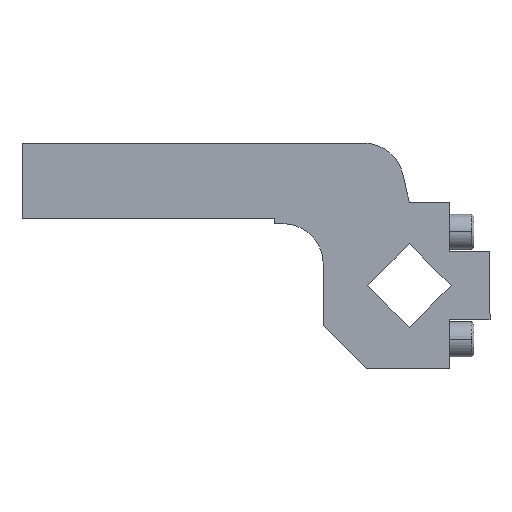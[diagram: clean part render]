
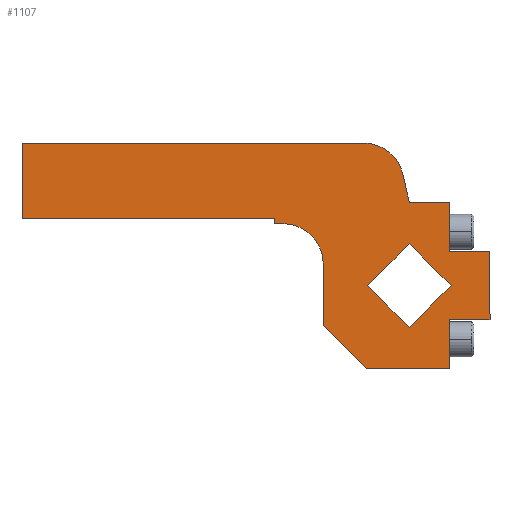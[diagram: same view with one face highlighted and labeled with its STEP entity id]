
A CAD part, front view. The second image highlights one B-rep face of the part: STEP entity #1107.
In plain terms, the highlighted planar face has unit normal (0, -1, 0).
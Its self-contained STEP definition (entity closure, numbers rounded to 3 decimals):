
#51=CARTESIAN_POINT('',(23.607,-10.,-6.393));
#52=VERTEX_POINT('',#51);
#68=CARTESIAN_POINT('',(28.,-10.,-17.0));
#69=VERTEX_POINT('',#68);
#76=CARTESIAN_POINT('',(13.0,-10.,-17.));
#77=DIRECTION('',(0.,-1.,0.));
#78=DIRECTION('',(0.707,0.,0.707));
#79=AXIS2_PLACEMENT_3D('',#76,#77,#78);
#80=CIRCLE('',#79,15.);
#81=EDGE_CURVE('',#69,#52,#80,.T.);
#93=CARTESIAN_POINT('',(52.327,-10.,24.739));
#94=VERTEX_POINT('',#93);
#110=CARTESIAN_POINT('',(42.989,-10.,28.));
#111=VERTEX_POINT('',#110);
#118=CARTESIAN_POINT('',(42.989,-10.,13.0));
#119=DIRECTION('',(0.,1.0,0.));
#120=DIRECTION('',(0.623,0.,0.783));
#121=AXIS2_PLACEMENT_3D('',#118,#119,#120);
#122=CIRCLE('',#121,15.);
#123=EDGE_CURVE('',#111,#94,#122,.T.);
#721=CARTESIAN_POINT('',(75.556,-10.,-25.));
#722=VERTEX_POINT('',#721);
#723=CARTESIAN_POINT('',(60.,-10.,-40.556));
#724=VERTEX_POINT('',#723);
#725=CARTESIAN_POINT('',(75.556,-10.,-25.));
#726=DIRECTION('',(-0.707,0.0,-0.707));
#727=VECTOR('',#726,22.);
#728=LINE('',#725,#727);
#729=EDGE_CURVE('',#722,#724,#728,.T.);
#761=CARTESIAN_POINT('',(60.,-10.,-9.444));
#762=VERTEX_POINT('',#761);
#763=CARTESIAN_POINT('',(60.,-10.,-9.444));
#764=DIRECTION('',(0.707,0.0,-0.707));
#765=VECTOR('',#764,22.);
#766=LINE('',#763,#765);
#767=EDGE_CURVE('',#762,#722,#766,.T.);
#792=CARTESIAN_POINT('',(60.,-10.,6.));
#793=VERTEX_POINT('',#792);
#794=CARTESIAN_POINT('',(75.,-10.,6.));
#795=VERTEX_POINT('',#794);
#796=CARTESIAN_POINT('',(60.,-10.,6.));
#797=DIRECTION('',(1.0,0.0,0.0));
#798=VECTOR('',#797,15.);
#799=LINE('',#796,#798);
#800=EDGE_CURVE('',#793,#795,#799,.T.);
#832=CARTESIAN_POINT('',(75.,-10.,-12.25));
#833=VERTEX_POINT('',#832);
#834=CARTESIAN_POINT('',(75.,-10.,6.));
#835=DIRECTION('',(0.0,0.0,-1.0));
#836=VECTOR('',#835,18.25);
#837=LINE('',#834,#836);
#838=EDGE_CURVE('',#795,#833,#837,.T.);
#867=CARTESIAN_POINT('',(90.,-10.,-12.25));
#868=VERTEX_POINT('',#867);
#869=CARTESIAN_POINT('',(75.,-10.,-12.25));
#870=DIRECTION('',(1.0,0.0,0.0));
#871=VECTOR('',#870,15.0);
#872=LINE('',#869,#871);
#873=EDGE_CURVE('',#833,#868,#872,.T.);
#898=CARTESIAN_POINT('',(90.,-10.,-37.75));
#899=VERTEX_POINT('',#898);
#900=CARTESIAN_POINT('',(90.,-10.,-12.25));
#901=DIRECTION('',(0.0,0.0,-1.0));
#902=VECTOR('',#901,25.5);
#903=LINE('',#900,#902);
#904=EDGE_CURVE('',#868,#899,#903,.T.);
#929=CARTESIAN_POINT('',(75.,-10.,-37.75));
#930=VERTEX_POINT('',#929);
#931=CARTESIAN_POINT('',(90.,-10.,-37.75));
#932=DIRECTION('',(-1.0,0.0,0.0));
#933=VECTOR('',#932,15.0);
#934=LINE('',#931,#933);
#935=EDGE_CURVE('',#899,#930,#934,.T.);
#960=CARTESIAN_POINT('',(75.,-10.,-56.));
#961=VERTEX_POINT('',#960);
#962=CARTESIAN_POINT('',(75.,-10.,-37.75));
#963=DIRECTION('',(0.0,0.0,-1.0));
#964=VECTOR('',#963,18.25);
#965=LINE('',#962,#964);
#966=EDGE_CURVE('',#930,#961,#965,.T.);
#990=CARTESIAN_POINT('',(13.0,-10.,-2.0));
#991=DIRECTION('',(0.0,-1.0,0.0));
#992=DIRECTION('',(1.0,0.0,0.0));
#993=AXIS2_PLACEMENT_3D('',#990,#991,#992);
#994=PLANE('',#993);
#995=CARTESIAN_POINT('',(44.,-10.,-56.));
#996=VERTEX_POINT('',#995);
#997=CARTESIAN_POINT('',(75.,-10.,-56.));
#998=DIRECTION('',(-1.0,0.0,0.0));
#999=VECTOR('',#998,31.);
#1000=LINE('',#997,#999);
#1001=EDGE_CURVE('',#961,#996,#1000,.T.);
#1002=ORIENTED_EDGE('',*,*,#1001,.F.);
#1003=ORIENTED_EDGE('',*,*,#966,.F.);
#1004=ORIENTED_EDGE('',*,*,#935,.F.);
#1005=ORIENTED_EDGE('',*,*,#904,.F.);
#1006=ORIENTED_EDGE('',*,*,#873,.F.);
#1007=ORIENTED_EDGE('',*,*,#838,.F.);
#1008=ORIENTED_EDGE('',*,*,#800,.F.);
#1009=CARTESIAN_POINT('',(57.605,-10.,16.374));
#1010=VERTEX_POINT('',#1009);
#1011=CARTESIAN_POINT('',(57.605,-10.,16.374));
#1012=DIRECTION('',(0.225,0.0,-0.974));
#1013=VECTOR('',#1012,10.647);
#1014=LINE('',#1011,#1013);
#1015=EDGE_CURVE('',#1010,#793,#1014,.T.);
#1016=ORIENTED_EDGE('',*,*,#1015,.F.);
#1017=CARTESIAN_POINT('',(42.989,-10.,13.0));
#1018=DIRECTION('',(0.,1.0,0.));
#1019=DIRECTION('',(0.623,0.,0.783));
#1020=AXIS2_PLACEMENT_3D('',#1017,#1018,#1019);
#1021=CIRCLE('',#1020,15.);
#1022=EDGE_CURVE('',#94,#1010,#1021,.T.);
#1023=ORIENTED_EDGE('',*,*,#1022,.F.);
#1024=ORIENTED_EDGE('',*,*,#123,.F.);
#1025=CARTESIAN_POINT('',(-84.,-10.,28.));
#1026=VERTEX_POINT('',#1025);
#1027=CARTESIAN_POINT('',(-84.,-10.,28.));
#1028=DIRECTION('',(1.0,0.0,0.0));
#1029=VECTOR('',#1028,126.989);
#1030=LINE('',#1027,#1029);
#1031=EDGE_CURVE('',#1026,#111,#1030,.T.);
#1032=ORIENTED_EDGE('',*,*,#1031,.F.);
#1033=CARTESIAN_POINT('',(-84.,-10.,0.));
#1034=VERTEX_POINT('',#1033);
#1035=CARTESIAN_POINT('',(-84.,-10.,0.));
#1036=DIRECTION('',(0.0,0.0,1.0));
#1037=VECTOR('',#1036,28.);
#1038=LINE('',#1035,#1037);
#1039=EDGE_CURVE('',#1034,#1026,#1038,.T.);
#1040=ORIENTED_EDGE('',*,*,#1039,.F.);
#1041=CARTESIAN_POINT('',(10.,-10.,0.0));
#1042=VERTEX_POINT('',#1041);
#1043=CARTESIAN_POINT('',(10.,-10.,0.0));
#1044=DIRECTION('',(-1.0,0.0,0.0));
#1045=VECTOR('',#1044,94.);
#1046=LINE('',#1043,#1045);
#1047=EDGE_CURVE('',#1042,#1034,#1046,.T.);
#1048=ORIENTED_EDGE('',*,*,#1047,.F.);
#1049=CARTESIAN_POINT('',(10.,-10.,-2.0));
#1050=VERTEX_POINT('',#1049);
#1051=CARTESIAN_POINT('',(10.,-10.,-2.0));
#1052=DIRECTION('',(0.0,0.0,1.0));
#1053=VECTOR('',#1052,2.0);
#1054=LINE('',#1051,#1053);
#1055=EDGE_CURVE('',#1050,#1042,#1054,.T.);
#1056=ORIENTED_EDGE('',*,*,#1055,.F.);
#1057=CARTESIAN_POINT('',(13.0,-10.,-2.0));
#1058=VERTEX_POINT('',#1057);
#1059=CARTESIAN_POINT('',(13.0,-10.,-2.0));
#1060=DIRECTION('',(-1.0,0.0,0.0));
#1061=VECTOR('',#1060,3.);
#1062=LINE('',#1059,#1061);
#1063=EDGE_CURVE('',#1058,#1050,#1062,.T.);
#1064=ORIENTED_EDGE('',*,*,#1063,.F.);
#1065=CARTESIAN_POINT('',(13.0,-10.,-17.));
#1066=DIRECTION('',(0.,-1.,0.));
#1067=DIRECTION('',(0.707,0.,0.707));
#1068=AXIS2_PLACEMENT_3D('',#1065,#1066,#1067);
#1069=CIRCLE('',#1068,15.);
#1070=EDGE_CURVE('',#52,#1058,#1069,.T.);
#1071=ORIENTED_EDGE('',*,*,#1070,.F.);
#1072=ORIENTED_EDGE('',*,*,#81,.F.);
#1073=CARTESIAN_POINT('',(28.,-10.,-40.));
#1074=VERTEX_POINT('',#1073);
#1075=CARTESIAN_POINT('',(28.,-10.,-40.));
#1076=DIRECTION('',(0.0,0.0,1.0));
#1077=VECTOR('',#1076,23.);
#1078=LINE('',#1075,#1077);
#1079=EDGE_CURVE('',#1074,#69,#1078,.T.);
#1080=ORIENTED_EDGE('',*,*,#1079,.F.);
#1081=CARTESIAN_POINT('',(44.,-10.,-56.));
#1082=DIRECTION('',(-0.707,0.0,0.707));
#1083=VECTOR('',#1082,22.627);
#1084=LINE('',#1081,#1083);
#1085=EDGE_CURVE('',#996,#1074,#1084,.T.);
#1086=ORIENTED_EDGE('',*,*,#1085,.F.);
#1087=EDGE_LOOP('',(#1002,#1003,#1004,#1005,#1006,#1007,#1008,#1016,#1023,#1024,#1032,#1040,#1048,#1056,#1064,#1071,#1072,#1080,#1086));
#1088=FACE_OUTER_BOUND('',#1087,.T.);
#1089=CARTESIAN_POINT('',(44.444,-10.,-25.));
#1090=VERTEX_POINT('',#1089);
#1091=CARTESIAN_POINT('',(60.,-10.,-40.556));
#1092=DIRECTION('',(-0.707,0.0,0.707));
#1093=VECTOR('',#1092,22.);
#1094=LINE('',#1091,#1093);
#1095=EDGE_CURVE('',#724,#1090,#1094,.T.);
#1096=ORIENTED_EDGE('',*,*,#1095,.T.);
#1097=CARTESIAN_POINT('',(44.444,-10.,-25.));
#1098=DIRECTION('',(0.707,0.0,0.707));
#1099=VECTOR('',#1098,22.);
#1100=LINE('',#1097,#1099);
#1101=EDGE_CURVE('',#1090,#762,#1100,.T.);
#1102=ORIENTED_EDGE('',*,*,#1101,.T.);
#1103=ORIENTED_EDGE('',*,*,#767,.T.);
#1104=ORIENTED_EDGE('',*,*,#729,.T.);
#1105=EDGE_LOOP('',(#1096,#1102,#1103,#1104));
#1106=FACE_BOUND('',#1105,.T.);
#1107=ADVANCED_FACE('',(#1088,#1106),#994,.T.);
